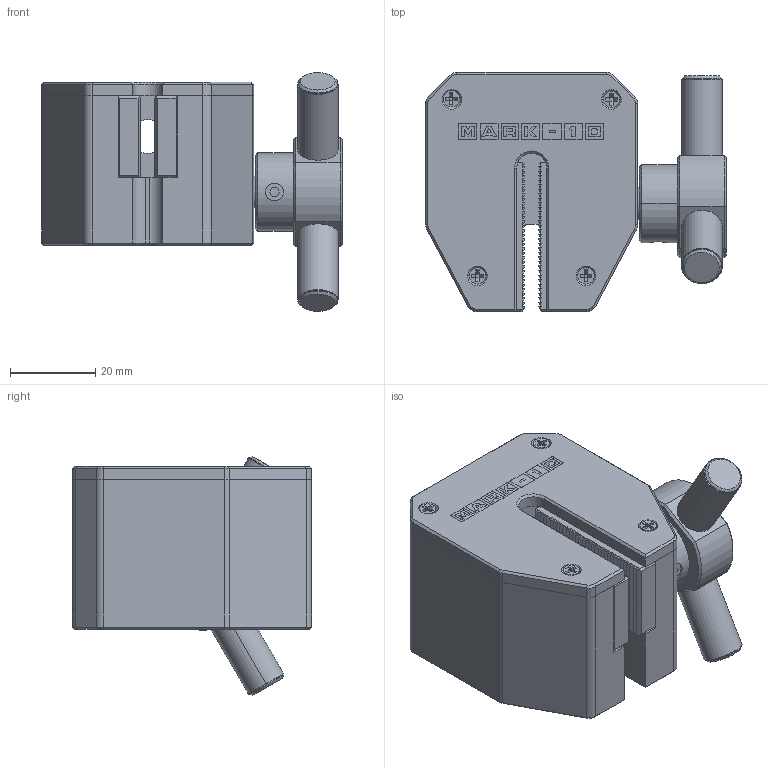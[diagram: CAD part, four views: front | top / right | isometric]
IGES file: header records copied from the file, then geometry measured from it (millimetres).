
Global section: file name: No Iges File Name specified; native system: Autodesk Inventor 2010; preprocessor: AutoDesk Inventor Iges Exporter R2010; author: mlampen; date: 20170420.111521; units: inch
Bounding box: 70.33 x 55.96 x 55.84 mm (x, y, z)
Volume: 96115.8 mm3; surface area: 26418.2 mm2
Topology: 7 solids, 7 shells, 630 faces, 1626 edges, 1048 vertices
Faces by surface type: plane 375, bspline 111, cylinder 65, revolution 41, cone 38
